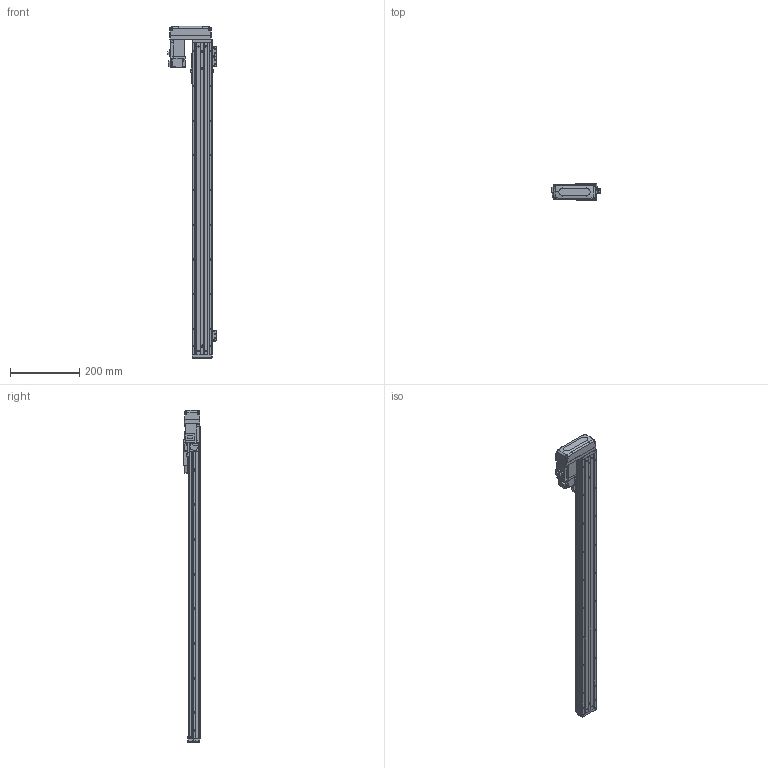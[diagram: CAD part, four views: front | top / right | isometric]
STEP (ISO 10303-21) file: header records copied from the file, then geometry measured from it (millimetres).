
FILE_DESCRIPTION (( 'STEP AP203' ), '1' );
FILE_NAME ('CTHA50-750-BR-M10-C4L.step', '2022-03-19T06:08:18', ( '微软用户' ), ( '微软中国' ), 'SwSTEP 2.0', 'SolidWorks 2020', '' );
FILE_SCHEMA (( 'CONFIG_CONTROL_DESIGN' ));
Length unit declared in the file: millimetre
Products named in the file (20): KTHA50-001_900; CTHA60-017; CTHA50-031; KTHA50-004; GBT 70.1-M4×12; GBT 70.3-M3℅6; KTHA50-005; CTHA60-016; CTHA50-015-2_CTHA60-015-2; GB¨uT 70.2-M3¡Á6_M3¡Á6; CTHA60-021; CTHA60-033; EE_SX911P_R; HG-KR13（三菱）; GBT 70.1-M3×15; GBT77-2000 M3×3; CTHA50-002; CTHA50-750-BR-M10-C4L; GBT 70.1-M3℅6; CTHA50-030
Assembly tree (60 placements, depth 2):
  CTHA50-750-BR-M10-C4L
    KTHA50-001_900
    KTHA50-004
    KTHA50-005
    GB¨uT 70.2-M3¡Á6_M3¡Á6  x10
    EE_SX911P_R  x3
    GBT77-2000 M3×3  x6
    GBT 70.1-M3℅6  x6
    CTHA60-017  x3
    GBT 70.1-M4×12  x10
    CTHA60-016  x2
    CTHA60-021  x2
    HG-KR13（三菱）
    CTHA50-002
    CTHA50-030  x2
    CTHA50-031
    GBT 70.3-M3℅6  x4
    CTHA50-015-2_CTHA60-015-2
    CTHA60-033
    GBT 70.1-M3×15  x4
Bounding box: 139.12 x 48 x 957 mm (x, y, z)
Volume: 1746893.4 mm3; surface area: 443387.4 mm2
Topology: 62 solids, 62 shells, 2593 faces, 6191 edges, 3798 vertices
Faces by surface type: plane 1470, cylinder 606, cone 359, torus 108, bspline 26, sphere 24
Entity records: 45269 total; most frequent: CARTESIAN_POINT 8331, DIRECTION 7085, ORIENTED_EDGE 6890, EDGE_CURVE 3445, LINE 2421, VECTOR 2421, AXIS2_PLACEMENT_3D 2332, VERTEX_POINT 2172
